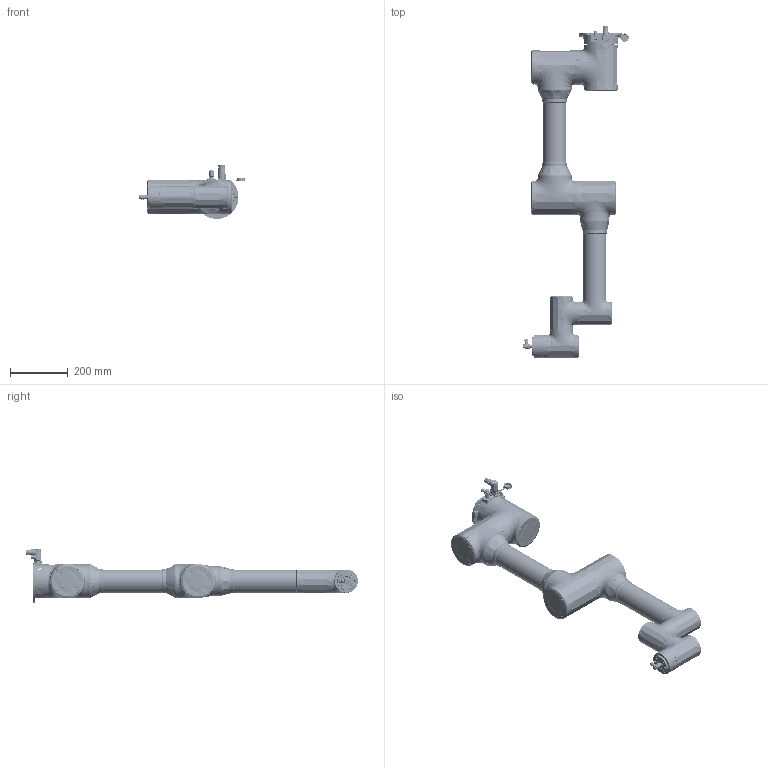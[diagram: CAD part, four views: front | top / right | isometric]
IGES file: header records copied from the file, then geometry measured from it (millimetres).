
Start section: SolidWorks IGES file using analytic representation for surfaces
Bounding box: 364.5 x 1144.69 x 185.3 mm (x, y, z)
Surface area: 795403.4 mm2 (no closed solid volume)
Topology: 0 solids, 0 shells, 6244 faces, 74134 edges, 73791 vertices
Faces by surface type: revolution 3447, bspline 2797
